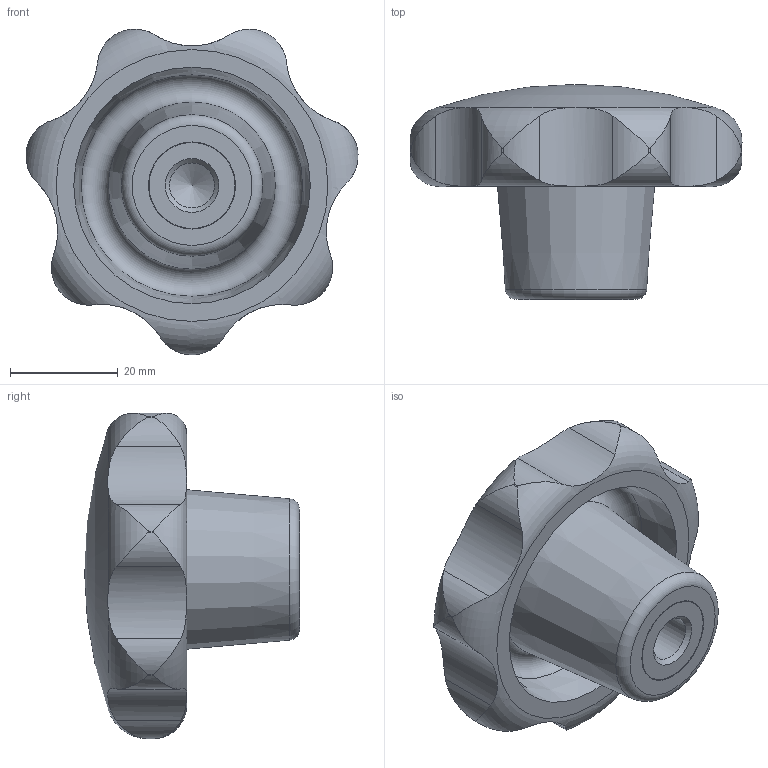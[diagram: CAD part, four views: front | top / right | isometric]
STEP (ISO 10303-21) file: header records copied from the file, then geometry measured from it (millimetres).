
FILE_DESCRIPTION( ( 'STEP AP203' ), '1' );
FILE_NAME( 'C:/Temp/Ganter_Step_05_03_2020/data/2_2/din_6336/din_6336_ku/din_6336_ku_k/Star knob DIN 6336-KU-63-M10-K-NI.stp', '2020-03-05T12:13:40', ( 'License CC BY-ND 4.0' ), ( 'CADENAS' ), ' ', 'PARTsolutions', ' ' );
FILE_SCHEMA( ( 'CONFIG_CONTROL_DESIGN' ) );
Length unit declared in the file: millimetre
Products named in the file (1): _Star knob DIN 6336-KU-63-M10-K-NI
Bounding box: 61.76 x 40 x 60.57 mm (x, y, z)
Volume: 46678.7 mm3; surface area: 11525.1 mm2
Topology: 1 solids, 1 shells, 50 faces, 133 edges, 87 vertices
Faces by surface type: cylinder 31, torus 10, cone 4, plane 4, sphere 1
Full cylindrical faces by diameter (mm): 8.376 x1, 16 x1, 16.2 x1
Entity records: 2254 total; most frequent: CARTESIAN_POINT 1108, ORIENTED_EDGE 236, DIRECTION 198, EDGE_CURVE 118, AXIS2_PLACEMENT_3D 85, VERTEX_POINT 85, EDGE_LOOP 63, FACE_OUTER_BOUND 56
